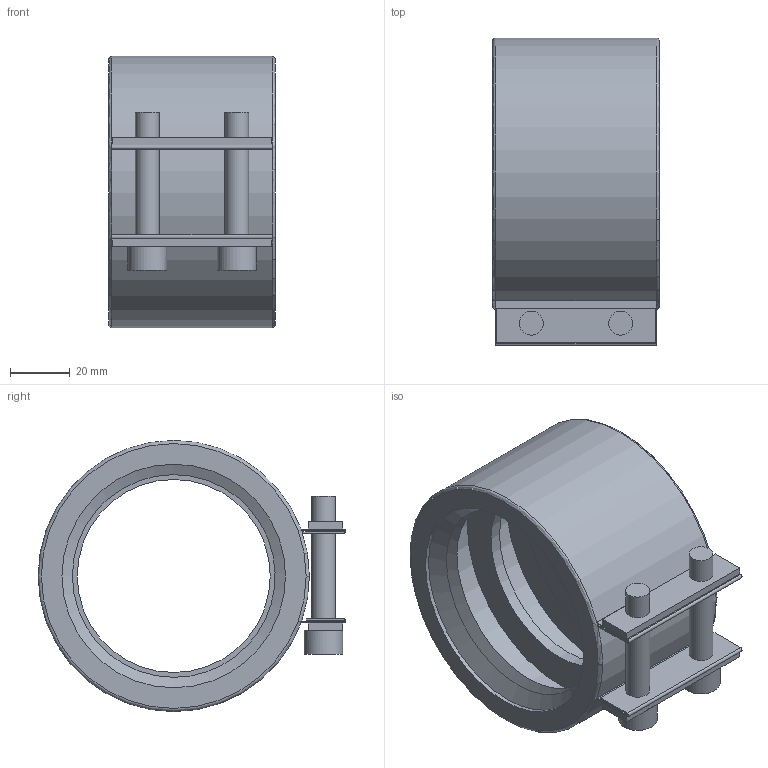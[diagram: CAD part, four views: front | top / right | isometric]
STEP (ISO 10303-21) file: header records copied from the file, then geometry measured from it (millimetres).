
FILE_DESCRIPTION( ( 'STEP AP214' ), '1' );
FILE_NAME( 'C:/Users/ilukic/Documents/ex/gebaudeentwasserung/pe/Geberit adapter clamping connector/359432.stp', '2020-03-26T18:41:16', ( '' ), ( '' ), ' ', 'PARTsolutions', ' ' );
FILE_SCHEMA( ( 'AUTOMOTIVE_DESIGN { 1 0 10303 214 1 1 1 1 }' ) );
Length unit declared in the file: millimetre
Products named in the file (1): _359432
Bounding box: 56 x 103.25 x 91 mm (x, y, z)
Volume: 77463.9 mm3; surface area: 70580.5 mm2
Topology: 1 solids, 1 shells, 111 faces, 281 edges, 184 vertices
Faces by surface type: plane 83, cylinder 22, cone 4, torus 2
Full cylindrical faces by diameter (mm): 8 x8, 13 x2, 64.762 x1, 68 x1, 75 x1, 87.332 x2
Entity records: 4042 total; most frequent: CARTESIAN_POINT 608, DIRECTION 512, ORIENTED_EDGE 488, EDGE_CURVE 244, AXIS2_PLACEMENT_3D 184, VERTEX_POINT 168, EDGE_LOOP 160, LINE 144
